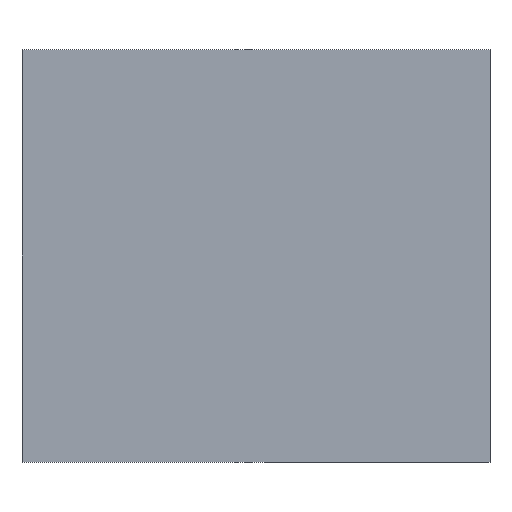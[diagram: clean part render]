
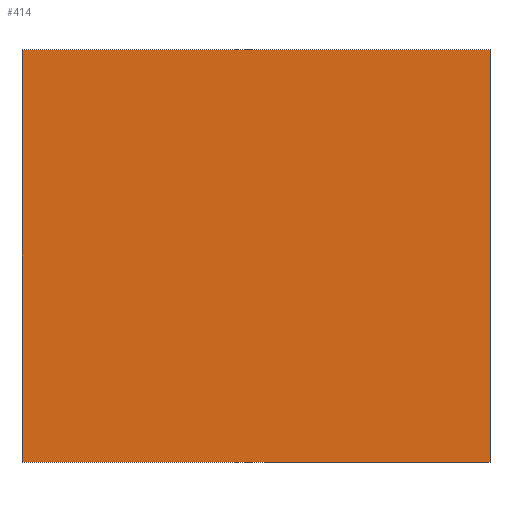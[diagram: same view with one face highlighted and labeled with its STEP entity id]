
A CAD part, front view. The second image highlights one B-rep face of the part: STEP entity #414.
In plain terms, the highlighted planar face has unit normal (0, -1, 0).
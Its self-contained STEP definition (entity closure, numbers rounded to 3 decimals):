
#22 = VERTEX_POINT('',#23);
#23 = CARTESIAN_POINT('',(100.,-176.,15.));
#32 = PLANE('',#33);
#33 = AXIS2_PLACEMENT_3D('',#34,#35,#36);
#34 = CARTESIAN_POINT('',(100.,-180.,0.));
#35 = DIRECTION('',(1.,0.,-0.));
#36 = DIRECTION('',(0.,0.,1.));
#44 = PLANE('',#45);
#45 = AXIS2_PLACEMENT_3D('',#46,#47,#48);
#46 = CARTESIAN_POINT('',(100.,-180.,15.));
#47 = DIRECTION('',(0.,0.,1.));
#48 = DIRECTION('',(1.,0.,-0.));
#56 = EDGE_CURVE('',#57,#22,#59,.T.);
#57 = VERTEX_POINT('',#58);
#58 = CARTESIAN_POINT('',(100.,-176.,0.));
#59 = SURFACE_CURVE('',#60,(#64,#70),.PCURVE_S1.);
#60 = LINE('',#61,#62);
#61 = CARTESIAN_POINT('',(100.,-176.,1.));
#62 = VECTOR('',#63,1.);
#63 = DIRECTION('',(0.,-0.,1.));
#64 = PCURVE('',#32,#65);
#65 = DEFINITIONAL_REPRESENTATION('',(#66),#69);
#66 = B_SPLINE_CURVE_WITH_KNOTS('',1,(#67,#68),.UNSPECIFIED.,.F.,.F.,(2,
    2),(-1.,14.),.PIECEWISE_BEZIER_KNOTS.);
#67 = CARTESIAN_POINT('',(0.,-4.));
#68 = CARTESIAN_POINT('',(15.,-4.));
#69 = ( GEOMETRIC_REPRESENTATION_CONTEXT(2) 
PARAMETRIC_REPRESENTATION_CONTEXT() REPRESENTATION_CONTEXT('2D SPACE',''
  ) );
#70 = PCURVE('',#71,#76);
#71 = PLANE('',#72);
#72 = AXIS2_PLACEMENT_3D('',#73,#74,#75);
#73 = CARTESIAN_POINT('',(-192.,-176.,2.));
#74 = DIRECTION('',(0.,1.,0.));
#75 = DIRECTION('',(1.,0.,0.));
#76 = DEFINITIONAL_REPRESENTATION('',(#77),#80);
#77 = B_SPLINE_CURVE_WITH_KNOTS('',1,(#78,#79),.UNSPECIFIED.,.F.,.F.,(2,
    2),(-1.,14.),.PIECEWISE_BEZIER_KNOTS.);
#78 = CARTESIAN_POINT('',(292.,2.));
#79 = CARTESIAN_POINT('',(292.,-13.));
#80 = ( GEOMETRIC_REPRESENTATION_CONTEXT(2) 
PARAMETRIC_REPRESENTATION_CONTEXT() REPRESENTATION_CONTEXT('2D SPACE',''
  ) );
#98 = PLANE('',#99);
#99 = AXIS2_PLACEMENT_3D('',#100,#101,#102);
#100 = CARTESIAN_POINT('',(100.,-180.,0.));
#101 = DIRECTION('',(0.,0.,1.));
#102 = DIRECTION('',(1.,0.,-0.));
#140 = EDGE_CURVE('',#141,#22,#143,.T.);
#141 = VERTEX_POINT('',#142);
#142 = CARTESIAN_POINT('',(117.,-176.,15.));
#143 = SURFACE_CURVE('',#144,(#148,#154),.PCURVE_S1.);
#144 = LINE('',#145,#146);
#145 = CARTESIAN_POINT('',(-46.,-176.,15.));
#146 = VECTOR('',#147,1.);
#147 = DIRECTION('',(-1.,0.,0.));
#148 = PCURVE('',#44,#149);
#149 = DEFINITIONAL_REPRESENTATION('',(#150),#153);
#150 = B_SPLINE_CURVE_WITH_KNOTS('',1,(#151,#152),.UNSPECIFIED.,.F.,.F.,
  (2,2),(-163.,-146.),.PIECEWISE_BEZIER_KNOTS.);
#151 = CARTESIAN_POINT('',(17.,4.));
#152 = CARTESIAN_POINT('',(0.,4.));
#153 = ( GEOMETRIC_REPRESENTATION_CONTEXT(2) 
PARAMETRIC_REPRESENTATION_CONTEXT() REPRESENTATION_CONTEXT('2D SPACE',''
  ) );
#154 = PCURVE('',#71,#155);
#155 = DEFINITIONAL_REPRESENTATION('',(#156),#159);
#156 = B_SPLINE_CURVE_WITH_KNOTS('',1,(#157,#158),.UNSPECIFIED.,.F.,.F.,
  (2,2),(-163.,-146.),.PIECEWISE_BEZIER_KNOTS.);
#157 = CARTESIAN_POINT('',(309.,-13.));
#158 = CARTESIAN_POINT('',(292.,-13.));
#159 = ( GEOMETRIC_REPRESENTATION_CONTEXT(2) 
PARAMETRIC_REPRESENTATION_CONTEXT() REPRESENTATION_CONTEXT('2D SPACE',''
  ) );
#177 = PLANE('',#178);
#178 = AXIS2_PLACEMENT_3D('',#179,#180,#181);
#179 = CARTESIAN_POINT('',(117.,-180.,0.));
#180 = DIRECTION('',(1.,0.,-0.));
#181 = DIRECTION('',(0.,0.,1.));
#263 = EDGE_CURVE('',#57,#264,#266,.T.);
#264 = VERTEX_POINT('',#265);
#265 = CARTESIAN_POINT('',(117.,-176.,0.));
#266 = SURFACE_CURVE('',#267,(#271,#278),.PCURVE_S1.);
#267 = LINE('',#268,#269);
#268 = CARTESIAN_POINT('',(-96.,-176.,0.));
#269 = VECTOR('',#270,1.);
#270 = DIRECTION('',(1.,0.,0.));
#271 = PCURVE('',#98,#272);
#272 = DEFINITIONAL_REPRESENTATION('',(#273),#277);
#273 = LINE('',#274,#275);
#274 = CARTESIAN_POINT('',(-196.,4.));
#275 = VECTOR('',#276,1.);
#276 = DIRECTION('',(1.,0.));
#277 = ( GEOMETRIC_REPRESENTATION_CONTEXT(2) 
PARAMETRIC_REPRESENTATION_CONTEXT() REPRESENTATION_CONTEXT('2D SPACE',''
  ) );
#278 = PCURVE('',#71,#279);
#279 = DEFINITIONAL_REPRESENTATION('',(#280),#284);
#280 = LINE('',#281,#282);
#281 = CARTESIAN_POINT('',(96.,2.));
#282 = VECTOR('',#283,1.);
#283 = DIRECTION('',(1.,0.));
#284 = ( GEOMETRIC_REPRESENTATION_CONTEXT(2) 
PARAMETRIC_REPRESENTATION_CONTEXT() REPRESENTATION_CONTEXT('2D SPACE',''
  ) );
#414 = ADVANCED_FACE('',(#415),#71,.F.);
#415 = FACE_BOUND('',#416,.F.);
#416 = EDGE_LOOP('',(#417,#438,#439,#440));
#417 = ORIENTED_EDGE('',*,*,#418,.F.);
#418 = EDGE_CURVE('',#264,#141,#419,.T.);
#419 = SURFACE_CURVE('',#420,(#424,#431),.PCURVE_S1.);
#420 = LINE('',#421,#422);
#421 = CARTESIAN_POINT('',(117.,-176.,0.));
#422 = VECTOR('',#423,1.);
#423 = DIRECTION('',(0.,0.,1.));
#424 = PCURVE('',#71,#425);
#425 = DEFINITIONAL_REPRESENTATION('',(#426),#430);
#426 = LINE('',#427,#428);
#427 = CARTESIAN_POINT('',(309.,2.));
#428 = VECTOR('',#429,1.);
#429 = DIRECTION('',(0.,-1.));
#430 = ( GEOMETRIC_REPRESENTATION_CONTEXT(2) 
PARAMETRIC_REPRESENTATION_CONTEXT() REPRESENTATION_CONTEXT('2D SPACE',''
  ) );
#431 = PCURVE('',#177,#432);
#432 = DEFINITIONAL_REPRESENTATION('',(#433),#437);
#433 = LINE('',#434,#435);
#434 = CARTESIAN_POINT('',(0.,-4.));
#435 = VECTOR('',#436,1.);
#436 = DIRECTION('',(1.,0.));
#437 = ( GEOMETRIC_REPRESENTATION_CONTEXT(2) 
PARAMETRIC_REPRESENTATION_CONTEXT() REPRESENTATION_CONTEXT('2D SPACE',''
  ) );
#438 = ORIENTED_EDGE('',*,*,#263,.F.);
#439 = ORIENTED_EDGE('',*,*,#56,.T.);
#440 = ORIENTED_EDGE('',*,*,#140,.F.);
